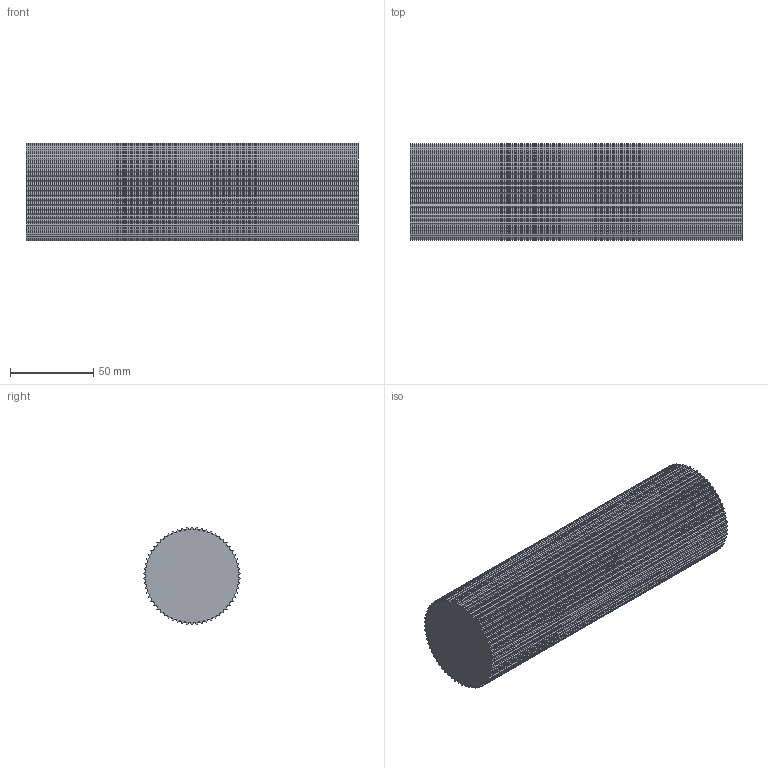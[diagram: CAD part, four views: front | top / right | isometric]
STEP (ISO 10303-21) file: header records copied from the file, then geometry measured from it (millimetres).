
FILE_DESCRIPTION( ( 'STEP AP214' ), '1' );
FILE_NAME( 'C:/Users/StangenbergN/Documents/CAD_Step/1/17096200.stp', '2019-08-23T07:11:56', ( '' ), ( '' ), ' ', 'PARTsolutions', ' ' );
FILE_SCHEMA( ( 'AUTOMOTIVE_DESIGN { 1 0 10303 214 1 1 1 1 }' ) );
Length unit declared in the file: millimetre
Products named in the file (1): _17096200
Bounding box: 200 x 58.37 x 58.44 mm (x, y, z)
Volume: 509820.9 mm3; surface area: 55397.2 mm2
Topology: 1 solids, 1 shells, 498 faces, 1488 edges, 992 vertices
Faces by surface type: cylinder 310, plane 188
Entity records: 21012 total; most frequent: DIRECTION 3106, CARTESIAN_POINT 2979, ORIENTED_EDGE 2976, EDGE_CURVE 1488, AXIS2_PLACEMENT_3D 1119, VERTEX_POINT 992, LINE 868, VECTOR 868
